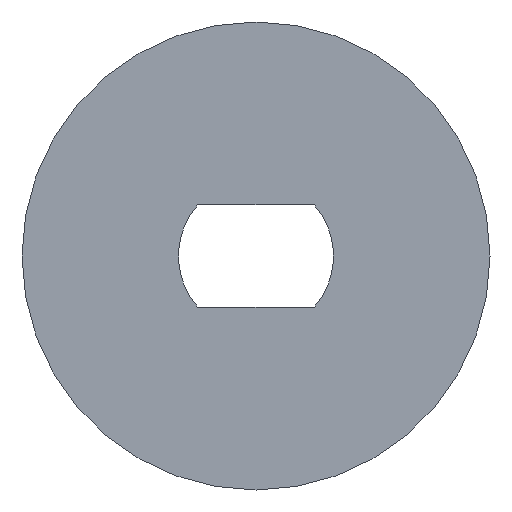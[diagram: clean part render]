
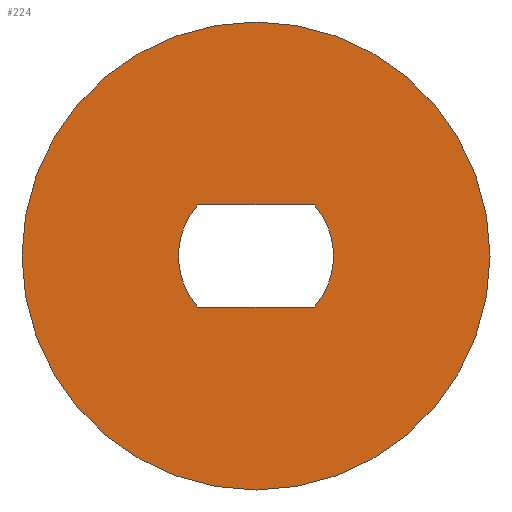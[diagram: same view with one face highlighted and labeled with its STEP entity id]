
A CAD part, front view. The second image highlights one B-rep face of the part: STEP entity #224.
In plain terms, the highlighted planar face has unit normal (0, -1, 0).
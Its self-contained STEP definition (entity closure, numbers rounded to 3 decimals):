
#55=CARTESIAN_POINT('',(0.,-4.5,0.));
#56=DIRECTION('',(0.,1.,0.));
#57=DIRECTION('',(1.,0.,0.));
#58=AXIS2_PLACEMENT_3D('',#55,#56,#57);
#60=CARTESIAN_POINT('',(0.,-4.5,0.));
#61=DIRECTION('',(0.,1.,0.));
#62=DIRECTION('',(-1.,0.,0.));
#63=AXIS2_PLACEMENT_3D('',#60,#61,#62);
#65=CARTESIAN_POINT('',(0.,-4.5,0.));
#66=DIRECTION('',(0.,1.,0.));
#67=DIRECTION('',(0.751,0.,0.66));
#68=AXIS2_PLACEMENT_3D('',#65,#66,#67);
#70=DIRECTION('',(1.,0.,0.));
#71=VECTOR('',#70,3.98);
#72=CARTESIAN_POINT('',(-1.99,-4.5,1.75));
#73=LINE('',#72,#71);
#74=CARTESIAN_POINT('',(0.,-4.5,0.));
#75=DIRECTION('',(0.,1.,0.));
#76=DIRECTION('',(-0.751,0.,-0.66));
#77=AXIS2_PLACEMENT_3D('',#74,#75,#76);
#79=DIRECTION('',(-1.,0.,0.));
#80=VECTOR('',#79,3.98);
#81=CARTESIAN_POINT('',(1.99,-4.5,-1.75));
#82=LINE('',#81,#80);
#107=CARTESIAN_POINT('',(8.,-4.5,0.));
#108=CARTESIAN_POINT('',(-8.,-4.5,0.));
#109=VERTEX_POINT('',#107);
#110=VERTEX_POINT('',#108);
#119=CARTESIAN_POINT('',(1.99,-4.5,1.75));
#120=CARTESIAN_POINT('',(1.99,-4.5,-1.75));
#121=VERTEX_POINT('',#119);
#122=VERTEX_POINT('',#120);
#123=CARTESIAN_POINT('',(-1.99,-4.5,-1.75));
#124=VERTEX_POINT('',#123);
#125=CARTESIAN_POINT('',(-1.99,-4.5,1.75));
#126=VERTEX_POINT('',#125);
#205=CARTESIAN_POINT('',(0.,-4.5,0.));
#206=DIRECTION('',(0.,1.,0.));
#207=DIRECTION('',(1.,0.,0.));
#208=AXIS2_PLACEMENT_3D('',#205,#206,#207);
#209=PLANE('',#208);
#210=ORIENTED_EDGE('',*,*,#172,.T.);
#211=ORIENTED_EDGE('',*,*,#187,.T.);
#212=EDGE_LOOP('',(#210,#211));
#213=FACE_OUTER_BOUND('',#212,.F.);
#215=ORIENTED_EDGE('',*,*,#214,.F.);
#217=ORIENTED_EDGE('',*,*,#216,.F.);
#219=ORIENTED_EDGE('',*,*,#218,.F.);
#221=ORIENTED_EDGE('',*,*,#220,.F.);
#222=EDGE_LOOP('',(#215,#217,#219,#221));
#223=FACE_BOUND('',#222,.F.);
#224=ADVANCED_FACE('',(#213,#223),#209,.F.);
#59=CIRCLE('',#58,8.);
#64=CIRCLE('',#63,8.);
#69=CIRCLE('',#68,2.65);
#78=CIRCLE('',#77,2.65);
#172=EDGE_CURVE('',#109,#110,#59,.T.);
#187=EDGE_CURVE('',#110,#109,#64,.T.);
#214=EDGE_CURVE('',#121,#122,#69,.T.);
#216=EDGE_CURVE('',#126,#121,#73,.T.);
#218=EDGE_CURVE('',#124,#126,#78,.T.);
#220=EDGE_CURVE('',#122,#124,#82,.T.);
